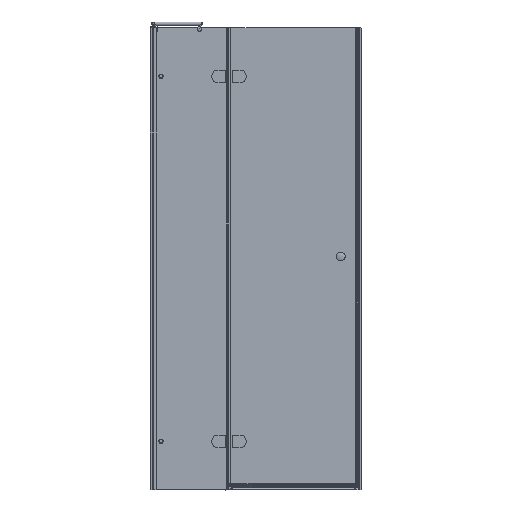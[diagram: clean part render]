
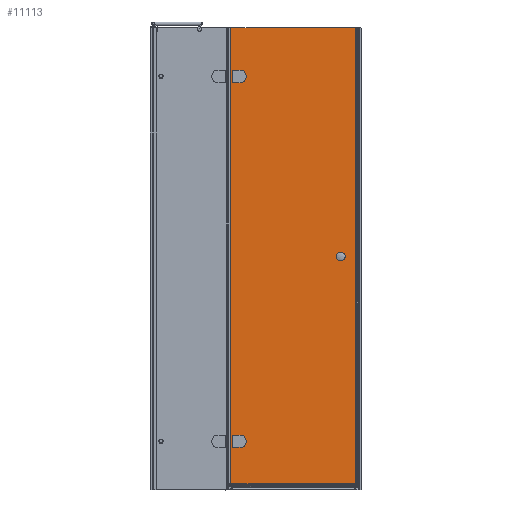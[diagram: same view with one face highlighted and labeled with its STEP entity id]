
A CAD part, left-side view. The second image highlights one B-rep face of the part: STEP entity #11113.
In plain terms, the highlighted planar face has unit normal (-1, 0, 0).
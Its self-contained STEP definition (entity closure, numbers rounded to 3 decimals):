
#124=LINE($,#15134,#1228);
#128=LINE($,#15142,#1232);
#132=LINE($,#15153,#1236);
#214=LINE($,#15365,#1318);
#218=LINE($,#15373,#1322);
#222=LINE($,#15384,#1326);
#418=LINE($,#16305,#1522);
#1060=LINE($,#18247,#2164);
#1170=LINE($,#18580,#2274);
#1173=LINE($,#18588,#2277);
#1228=VECTOR($,#12186,52.);
#1232=VECTOR($,#12192,23.);
#1236=VECTOR($,#12204,23.);
#1318=VECTOR($,#12410,52.);
#1322=VECTOR($,#12416,23.);
#1326=VECTOR($,#12428,23.);
#1522=VECTOR($,#13002,1975.4);
#2164=VECTOR($,#14602,545.4);
#2274=VECTOR($,#14916,1975.4);
#2277=VECTOR($,#14927,545.4);
#2385=FACE_BOUND($,#3791,.T.);
#2386=FACE_BOUND($,#3792,.T.);
#2387=FACE_BOUND($,#3793,.T.);
#3791=EDGE_LOOP($,(#9375,#9376,#9377,#9378));
#3792=EDGE_LOOP($,(#9379,#9380,#9381,#9382));
#3793=EDGE_LOOP($,(#9383,#9384,#9385,#9386));
#3834=CIRCLE($,#11184,26.);
#3856=CIRCLE($,#11251,26.);
#4166=VERTEX_POINT($,#15132);
#4167=VERTEX_POINT($,#15133);
#4170=VERTEX_POINT($,#15141);
#4172=VERTEX_POINT($,#15147);
#4240=VERTEX_POINT($,#15363);
#4241=VERTEX_POINT($,#15364);
#4244=VERTEX_POINT($,#15372);
#4246=VERTEX_POINT($,#15378);
#4484=VERTEX_POINT($,#16302);
#4485=VERTEX_POINT($,#16304);
#4963=VERTEX_POINT($,#18245);
#5036=VERTEX_POINT($,#18578);
#5107=EDGE_CURVE($,#4166,#4167,#124,.T.);
#5111=EDGE_CURVE($,#4167,#4170,#128,.T.);
#5114=EDGE_CURVE($,#4170,#4172,#3834,.T.);
#5117=EDGE_CURVE($,#4172,#4166,#132,.T.);
#5219=EDGE_CURVE($,#4240,#4241,#214,.T.);
#5223=EDGE_CURVE($,#4241,#4244,#218,.T.);
#5226=EDGE_CURVE($,#4244,#4246,#3856,.T.);
#5229=EDGE_CURVE($,#4246,#4240,#222,.T.);
#5535=EDGE_CURVE($,#4484,#4485,#418,.T.);
#6351=EDGE_CURVE($,#4484,#4963,#1060,.T.);
#6495=EDGE_CURVE($,#4963,#5036,#1170,.T.);
#6499=EDGE_CURVE($,#5036,#4485,#1173,.T.);
#9375=ORIENTED_EDGE($,*,*,#5107,.F.);
#9376=ORIENTED_EDGE($,*,*,#5117,.F.);
#9377=ORIENTED_EDGE($,*,*,#5114,.F.);
#9378=ORIENTED_EDGE($,*,*,#5111,.F.);
#9379=ORIENTED_EDGE($,*,*,#5219,.F.);
#9380=ORIENTED_EDGE($,*,*,#5229,.F.);
#9381=ORIENTED_EDGE($,*,*,#5226,.F.);
#9382=ORIENTED_EDGE($,*,*,#5223,.F.);
#9383=ORIENTED_EDGE($,*,*,#6351,.T.);
#9384=ORIENTED_EDGE($,*,*,#6495,.T.);
#9385=ORIENTED_EDGE($,*,*,#6499,.T.);
#9386=ORIENTED_EDGE($,*,*,#5535,.F.);
#9903=PLANE($,#12027);
#11113=ADVANCED_FACE($,(#2385,#2386,#2387),#9903,.F.);
#11184=AXIS2_PLACEMENT_3D($,#15148,#12197,#12198);
#11251=AXIS2_PLACEMENT_3D($,#15379,#12421,#12422);
#12027=AXIS2_PLACEMENT_3D($,#18587,#14925,#14926);
#12186=DIRECTION($,(0.,0.,-1.));
#12192=DIRECTION($,(0.,-1.,0.));
#12197=DIRECTION('center_axis',(-1.,0.,0.));
#12198=DIRECTION('ref_axis',(0.,0.,
1.));
#12204=DIRECTION($,(0.,1.,0.));
#12410=DIRECTION($,(0.,0.,-1.));
#12416=DIRECTION($,(0.,-1.,0.));
#12421=DIRECTION('center_axis',(-1.,0.,0.));
#12422=DIRECTION('ref_axis',(0.,0.,
1.));
#12428=DIRECTION($,(0.,1.,0.));
#13002=DIRECTION($,(0.,0.,1.));
#14602=DIRECTION($,(0.,-1.,0.));
#14916=DIRECTION($,(0.,0.,1.));
#14925=DIRECTION('center_axis',(1.,0.,0.));
#14926=DIRECTION('ref_axis',(0.,1.,0.));
#14927=DIRECTION($,(0.,1.,0.));
#15132=CARTESIAN_POINT('',(1325.733,-532.644,-278.056));
#15133=CARTESIAN_POINT('',(1325.733,-532.644,-330.056));
#15134=CARTESIAN_POINT($,(1325.733,-532.644,-412.056));
#15141=CARTESIAN_POINT('',(1325.733,-555.644,-330.056));
#15142=CARTESIAN_POINT($,(1325.733,-808.644,-330.056));
#15147=CARTESIAN_POINT('',(1325.733,-555.644,-278.056));
#15148=CARTESIAN_POINT('Origin',(1325.733,-555.644,-304.056));
#15153=CARTESIAN_POINT($,(1325.733,-797.144,-278.056));
#15363=CARTESIAN_POINT('',(1325.733,-532.644,1301.944));
#15364=CARTESIAN_POINT('',(1325.733,-532.644,1249.944));
#15365=CARTESIAN_POINT($,(1325.733,-532.644,377.944));
#15372=CARTESIAN_POINT('',(1325.733,-555.644,1249.944));
#15373=CARTESIAN_POINT($,(1325.733,-808.644,1249.944));
#15378=CARTESIAN_POINT('',(1325.733,-555.644,1301.944));
#15379=CARTESIAN_POINT('Origin',(1325.733,-555.644,1275.944));
#15384=CARTESIAN_POINT($,(1325.733,-797.144,1301.944));
#16302=CARTESIAN_POINT('',(1325.733,-511.644,-489.456));
#16304=CARTESIAN_POINT('',(1325.733,-511.644,1485.944));
#16305=CARTESIAN_POINT($,(1325.733,-511.644,-494.056));
#18245=CARTESIAN_POINT('',(1325.733,-1057.044,-489.456));
#18247=CARTESIAN_POINT($,(1325.733,-511.644,-489.456));
#18578=CARTESIAN_POINT('',(1325.733,-1057.044,1485.944));
#18580=CARTESIAN_POINT($,(1325.733,-1057.044,-494.056));
#18587=CARTESIAN_POINT('Origin',(1325.733,-1061.644,-494.056));
#18588=CARTESIAN_POINT($,(1325.733,-1061.644,1485.944));
